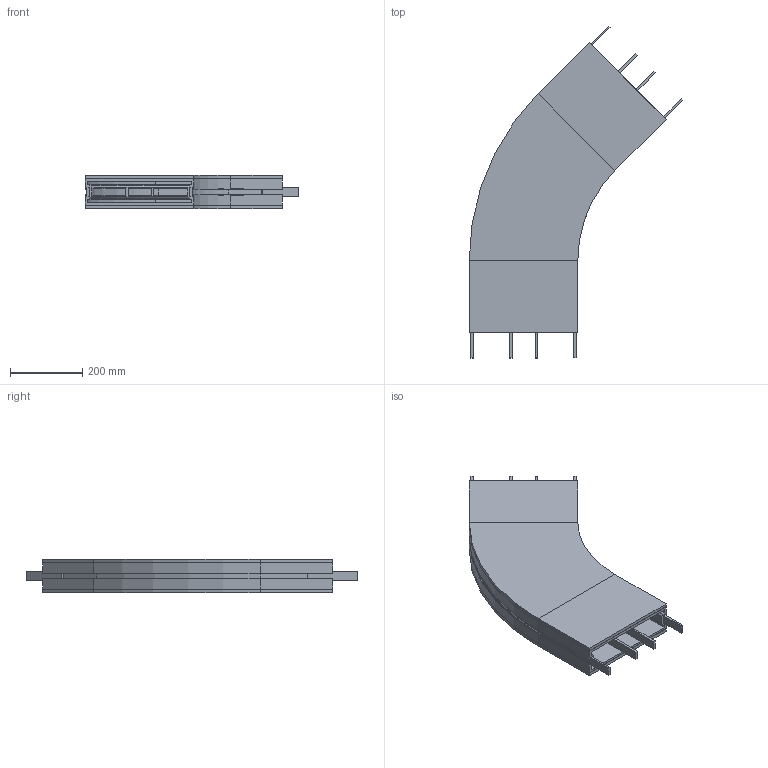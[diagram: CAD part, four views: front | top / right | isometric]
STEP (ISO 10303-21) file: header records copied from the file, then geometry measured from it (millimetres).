
FILE_DESCRIPTION (( 'STEP AP214' ), '1' );
FILE_NAME ('FBBP 45A300R500L200L200.00.step', '2026-05-29T10:20:30', ( '' ), ( '' ), 'SwSTEP 2.0', 'SolidWorks 2024', '' );
FILE_SCHEMA (( 'AUTOMOTIVE_DESIGN' ));
Length unit declared in the file: millimetre
Products named in the file (1): FBBP 45A300R500L200L200.00
Bounding box: 590 x 917.11 x 93 mm (x, y, z)
Volume: 8728124.7 mm3; surface area: 2296250.8 mm2
Topology: 11 solids, 11 shells, 375 faces, 845 edges, 492 vertices
Faces by surface type: plane 274, cone 66, cylinder 30, torus 5
Entity records: 10191 total; most frequent: DIRECTION 1724, CARTESIAN_POINT 1713, ORIENTED_EDGE 1690, EDGE_CURVE 845, LINE 718, VECTOR 718, AXIS2_PLACEMENT_3D 503, VERTEX_POINT 492
